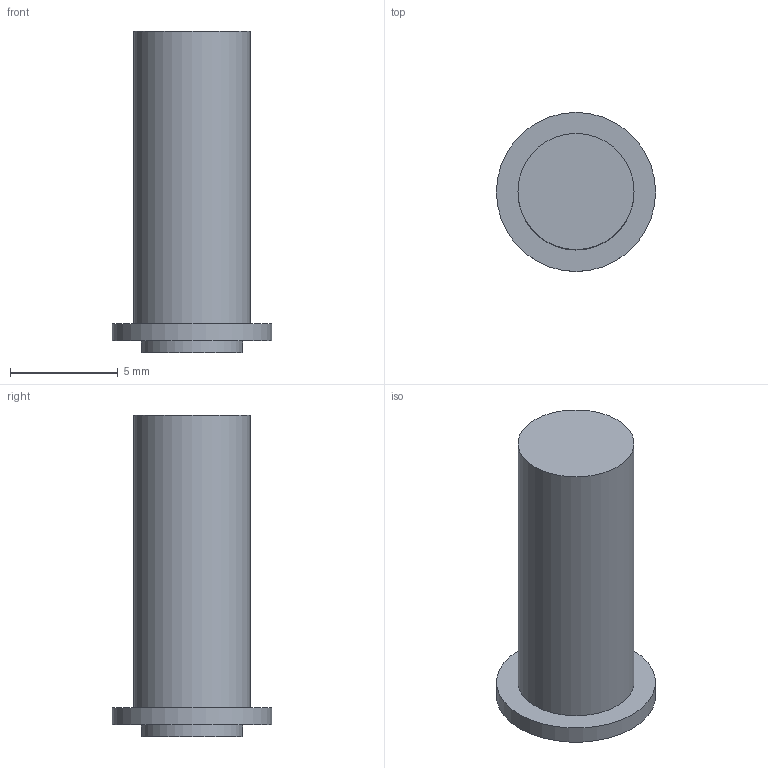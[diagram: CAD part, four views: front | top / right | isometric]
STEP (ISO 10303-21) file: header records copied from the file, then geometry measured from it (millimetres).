
FILE_DESCRIPTION(('Open CASCADE Model'),'2;1');
FILE_NAME('Open CASCADE Shape Model','2026-10-05T20:28:06',('Author'),( 'Open CASCADE'),'Open CASCADE STEP processor 7.9','Open CASCADE 7.9' ,'Unknown');
FILE_SCHEMA(('AUTOMOTIVE_DESIGN { 1 0 10303 214 1 1 1 1 }'));
Length unit declared in the file: millimetre
Products named in the file (1): Open CASCADE STEP translator 7.9 3
Bounding box: 7.4 x 7.4 x 14.95 mm (x, y, z)
Volume: 355.1 mm3; surface area: 346.9 mm2
Topology: 1 solids, 1 shells, 11 faces, 15 edges, 10 vertices
Faces by surface type: plane 6, cylinder 5
Full cylindrical faces by diameter (mm): 2 x1, 2.4 x1, 4.7 x1, 5.4 x1, 7.4 x1
Entity records: 450 total; most frequent: CARTESIAN_POINT 79, DIRECTION 77, ORIENTED_EDGE 30, PCURVE 30, DEFINITIONAL_REPRESENTATION 30, LINE 25, VECTOR 25, AXIS2_PLACEMENT_3D 22
